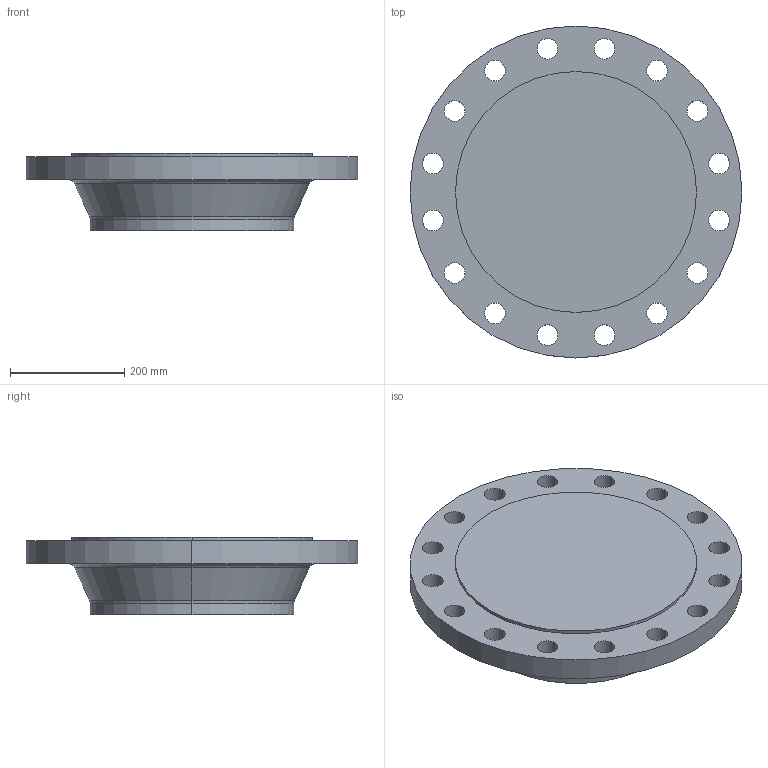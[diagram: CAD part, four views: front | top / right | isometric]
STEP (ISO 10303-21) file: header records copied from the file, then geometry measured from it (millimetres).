
FILE_DESCRIPTION (( 'STEP AP214' ), '1' );
FILE_NAME ('PN40 DN350 Type 21(ii) - Type E Face.STEP', '2019-01-05T21:43:49', ( '' ), ( '' ), 'SwSTEP 2.0', 'SolidWorks 2019', '' );
FILE_SCHEMA (( 'AUTOMOTIVE_DESIGN' ));
Length unit declared in the file: millimetre
Products named in the file (1): PN40 DN350 Type 21(ii) - Type E Face
Bounding box: 580 x 580 x 135 mm (x, y, z)
Volume: 20855260.4 mm3; surface area: 724789 mm2
Topology: 1 solids, 1 shells, 48 faces, 126 edges, 82 vertices
Faces by surface type: cylinder 38, torus 4, plane 4, cone 2
Entity records: 1626 total; most frequent: DIRECTION 310, CARTESIAN_POINT 257, ORIENTED_EDGE 252, AXIS2_PLACEMENT_3D 135, EDGE_CURVE 126, CIRCLE 86, VERTEX_POINT 82, EDGE_LOOP 82
